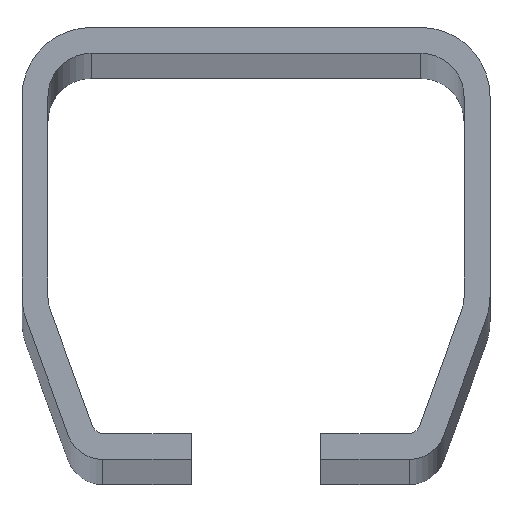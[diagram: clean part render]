
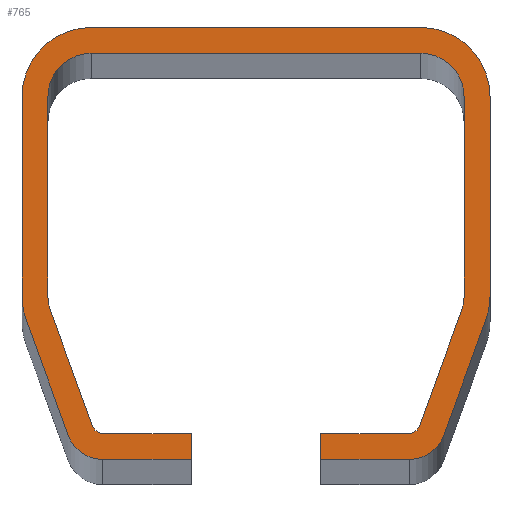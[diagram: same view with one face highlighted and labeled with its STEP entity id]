
A CAD part, top view. The second image highlights one B-rep face of the part: STEP entity #765.
In plain terms, the highlighted planar face has unit normal (0, 0, 1).
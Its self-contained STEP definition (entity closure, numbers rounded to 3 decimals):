
#17=CIRCLE('',#798,5.1);
#19=CIRCLE('',#802,9.6);
#21=CIRCLE('',#806,9.6);
#23=CIRCLE('',#810,9.6);
#25=CIRCLE('',#814,9.6);
#27=CIRCLE('',#818,5.1);
#29=CIRCLE('',#824,1.5);
#31=CIRCLE('',#828,6.);
#33=CIRCLE('',#832,6.);
#35=CIRCLE('',#836,6.);
#37=CIRCLE('',#840,6.);
#39=CIRCLE('',#844,1.5);
#91=FACE_OUTER_BOUND('',#133,.T.);
#133=EDGE_LOOP('',(#643,#644,#645,#646,#647,#648,#649,#650,#651,#652,#653,
#654,#655,#656,#657,#658,#659,#660,#661,#662,#663,#664,#665,#666,#667,#668,
#669,#670));
#161=LINE('',#1127,#245);
#165=LINE('',#1139,#249);
#169=LINE('',#1151,#253);
#173=LINE('',#1163,#257);
#177=LINE('',#1175,#261);
#181=LINE('',#1187,#265);
#184=LINE('',#1193,#268);
#187=LINE('',#1199,#271);
#191=LINE('',#1211,#275);
#195=LINE('',#1223,#279);
#199=LINE('',#1235,#283);
#203=LINE('',#1247,#287);
#207=LINE('',#1259,#291);
#211=LINE('',#1271,#295);
#214=LINE('',#1277,#298);
#217=LINE('',#1282,#301);
#245=VECTOR('',#907,10.);
#249=VECTOR('',#919,10.);
#253=VECTOR('',#931,10.);
#257=VECTOR('',#943,10.);
#261=VECTOR('',#955,10.);
#265=VECTOR('',#967,10.);
#268=VECTOR('',#972,10.);
#271=VECTOR('',#977,10.);
#275=VECTOR('',#989,10.);
#279=VECTOR('',#1001,10.);
#283=VECTOR('',#1013,10.);
#287=VECTOR('',#1025,10.);
#291=VECTOR('',#1037,10.);
#295=VECTOR('',#1049,10.);
#298=VECTOR('',#1054,10.);
#301=VECTOR('',#1059,10.);
#319=VERTEX_POINT('',#1117);
#320=VERTEX_POINT('',#1118);
#323=VERTEX_POINT('',#1126);
#325=VERTEX_POINT('',#1132);
#327=VERTEX_POINT('',#1138);
#329=VERTEX_POINT('',#1144);
#331=VERTEX_POINT('',#1150);
#333=VERTEX_POINT('',#1156);
#335=VERTEX_POINT('',#1162);
#337=VERTEX_POINT('',#1168);
#339=VERTEX_POINT('',#1174);
#341=VERTEX_POINT('',#1180);
#343=VERTEX_POINT('',#1186);
#345=VERTEX_POINT('',#1192);
#347=VERTEX_POINT('',#1198);
#349=VERTEX_POINT('',#1204);
#351=VERTEX_POINT('',#1210);
#353=VERTEX_POINT('',#1216);
#355=VERTEX_POINT('',#1222);
#357=VERTEX_POINT('',#1228);
#359=VERTEX_POINT('',#1234);
#361=VERTEX_POINT('',#1240);
#363=VERTEX_POINT('',#1246);
#365=VERTEX_POINT('',#1252);
#367=VERTEX_POINT('',#1258);
#369=VERTEX_POINT('',#1264);
#371=VERTEX_POINT('',#1270);
#373=VERTEX_POINT('',#1276);
#399=EDGE_CURVE('',#319,#320,#17,.T.);
#403=EDGE_CURVE('',#320,#323,#161,.T.);
#406=EDGE_CURVE('',#323,#325,#19,.T.);
#409=EDGE_CURVE('',#325,#327,#165,.T.);
#412=EDGE_CURVE('',#327,#329,#21,.T.);
#415=EDGE_CURVE('',#329,#331,#169,.T.);
#418=EDGE_CURVE('',#331,#333,#23,.T.);
#421=EDGE_CURVE('',#333,#335,#173,.T.);
#424=EDGE_CURVE('',#335,#337,#25,.T.);
#427=EDGE_CURVE('',#337,#339,#177,.T.);
#430=EDGE_CURVE('',#339,#341,#27,.T.);
#433=EDGE_CURVE('',#341,#343,#181,.T.);
#436=EDGE_CURVE('',#343,#345,#184,.T.);
#439=EDGE_CURVE('',#345,#347,#187,.T.);
#442=EDGE_CURVE('',#347,#349,#29,.T.);
#445=EDGE_CURVE('',#349,#351,#191,.T.);
#448=EDGE_CURVE('',#351,#353,#31,.T.);
#451=EDGE_CURVE('',#353,#355,#195,.T.);
#454=EDGE_CURVE('',#355,#357,#33,.T.);
#457=EDGE_CURVE('',#357,#359,#199,.T.);
#460=EDGE_CURVE('',#359,#361,#35,.T.);
#463=EDGE_CURVE('',#361,#363,#203,.T.);
#466=EDGE_CURVE('',#363,#365,#37,.T.);
#469=EDGE_CURVE('',#365,#367,#207,.T.);
#472=EDGE_CURVE('',#367,#369,#39,.T.);
#475=EDGE_CURVE('',#369,#371,#211,.T.);
#478=EDGE_CURVE('',#371,#373,#214,.T.);
#481=EDGE_CURVE('',#373,#319,#217,.T.);
#643=ORIENTED_EDGE('',*,*,#399,.F.);
#644=ORIENTED_EDGE('',*,*,#481,.F.);
#645=ORIENTED_EDGE('',*,*,#478,.F.);
#646=ORIENTED_EDGE('',*,*,#475,.F.);
#647=ORIENTED_EDGE('',*,*,#472,.F.);
#648=ORIENTED_EDGE('',*,*,#469,.F.);
#649=ORIENTED_EDGE('',*,*,#466,.F.);
#650=ORIENTED_EDGE('',*,*,#463,.F.);
#651=ORIENTED_EDGE('',*,*,#460,.F.);
#652=ORIENTED_EDGE('',*,*,#457,.F.);
#653=ORIENTED_EDGE('',*,*,#454,.F.);
#654=ORIENTED_EDGE('',*,*,#451,.F.);
#655=ORIENTED_EDGE('',*,*,#448,.F.);
#656=ORIENTED_EDGE('',*,*,#445,.F.);
#657=ORIENTED_EDGE('',*,*,#442,.F.);
#658=ORIENTED_EDGE('',*,*,#439,.F.);
#659=ORIENTED_EDGE('',*,*,#436,.F.);
#660=ORIENTED_EDGE('',*,*,#433,.F.);
#661=ORIENTED_EDGE('',*,*,#430,.F.);
#662=ORIENTED_EDGE('',*,*,#427,.F.);
#663=ORIENTED_EDGE('',*,*,#424,.F.);
#664=ORIENTED_EDGE('',*,*,#421,.F.);
#665=ORIENTED_EDGE('',*,*,#418,.F.);
#666=ORIENTED_EDGE('',*,*,#415,.F.);
#667=ORIENTED_EDGE('',*,*,#412,.F.);
#668=ORIENTED_EDGE('',*,*,#409,.F.);
#669=ORIENTED_EDGE('',*,*,#406,.F.);
#670=ORIENTED_EDGE('',*,*,#403,.F.);
#725=PLANE('',#849);
#765=ADVANCED_FACE('',(#91),#725,.T.);
#798=AXIS2_PLACEMENT_3D('',#1119,#899,#900);
#802=AXIS2_PLACEMENT_3D('',#1133,#912,#913);
#806=AXIS2_PLACEMENT_3D('',#1145,#924,#925);
#810=AXIS2_PLACEMENT_3D('',#1157,#936,#937);
#814=AXIS2_PLACEMENT_3D('',#1169,#948,#949);
#818=AXIS2_PLACEMENT_3D('',#1181,#960,#961);
#824=AXIS2_PLACEMENT_3D('',#1205,#982,#983);
#828=AXIS2_PLACEMENT_3D('',#1217,#994,#995);
#832=AXIS2_PLACEMENT_3D('',#1229,#1006,#1007);
#836=AXIS2_PLACEMENT_3D('',#1241,#1018,#1019);
#840=AXIS2_PLACEMENT_3D('',#1253,#1030,#1031);
#844=AXIS2_PLACEMENT_3D('',#1265,#1042,#1043);
#849=AXIS2_PLACEMENT_3D('',#1284,#1061,#1062);
#899=DIRECTION('center_axis',(0.,0.,-1.));
#900=DIRECTION('ref_axis',(0.94,0.342,0.));
#907=DIRECTION('',(-0.342,0.94,0.));
#912=DIRECTION('center_axis',(0.,0.,-1.));
#913=DIRECTION('ref_axis',(1.,0.,0.));
#919=DIRECTION('',(0.,1.,0.));
#924=DIRECTION('center_axis',(0.,0.,-1.));
#925=DIRECTION('ref_axis',(0.,-1.,0.));
#931=DIRECTION('',(1.,0.,0.));
#936=DIRECTION('center_axis',(0.,0.,-1.));
#937=DIRECTION('ref_axis',(-1.,0.,0.));
#943=DIRECTION('',(0.,-1.,0.));
#948=DIRECTION('center_axis',(0.,0.,-1.));
#949=DIRECTION('ref_axis',(-0.94,0.342,0.));
#955=DIRECTION('',(-0.342,-0.94,0.));
#960=DIRECTION('center_axis',(0.,0.,-1.));
#961=DIRECTION('ref_axis',(0.,1.,0.));
#967=DIRECTION('',(-1.,0.,0.));
#972=DIRECTION('',(0.,1.,0.));
#977=DIRECTION('',(1.,0.,0.));
#982=DIRECTION('center_axis',(0.,0.,1.));
#983=DIRECTION('ref_axis',(0.,-1.,0.));
#989=DIRECTION('',(0.342,0.94,0.));
#994=DIRECTION('center_axis',(0.,0.,1.));
#995=DIRECTION('ref_axis',(0.94,-0.342,0.));
#1001=DIRECTION('',(0.,1.,0.));
#1006=DIRECTION('center_axis',(0.,0.,1.));
#1007=DIRECTION('ref_axis',(1.,0.,0.));
#1013=DIRECTION('',(-1.,0.,0.));
#1018=DIRECTION('center_axis',(0.,0.,1.));
#1019=DIRECTION('ref_axis',(0.,1.,0.));
#1025=DIRECTION('',(0.,-1.,0.));
#1030=DIRECTION('center_axis',(0.,0.,1.));
#1031=DIRECTION('ref_axis',(-1.,0.,0.));
#1037=DIRECTION('',(0.342,-0.94,0.));
#1042=DIRECTION('center_axis',(0.,0.,1.));
#1043=DIRECTION('ref_axis',(-0.94,-0.342,0.));
#1049=DIRECTION('',(1.,0.,0.));
#1054=DIRECTION('',(0.,-1.,0.));
#1059=DIRECTION('',(-1.,0.,0.));
#1061=DIRECTION('center_axis',(0.,0.,1.));
#1062=DIRECTION('ref_axis',(1.,0.,0.));
#1117=CARTESIAN_POINT('',(-21.286,-3.6,2000.));
#1118=CARTESIAN_POINT('',(-26.078,-0.244,2000.));
#1119=CARTESIAN_POINT('Origin',(-21.286,1.5,2000.));
#1126=CARTESIAN_POINT('',(-31.921,15.809,2000.));
#1127=CARTESIAN_POINT('',(-26.078,-0.244,2000.));
#1132=CARTESIAN_POINT('',(-32.5,19.093,2000.));
#1133=CARTESIAN_POINT('Origin',(-22.9,19.093,2000.));
#1138=CARTESIAN_POINT('',(-32.5,46.8,2000.));
#1139=CARTESIAN_POINT('',(-32.5,19.093,2000.));
#1144=CARTESIAN_POINT('',(-22.9,56.4,2000.));
#1145=CARTESIAN_POINT('Origin',(-22.9,46.8,2000.));
#1150=CARTESIAN_POINT('',(22.9,56.4,2000.));
#1151=CARTESIAN_POINT('',(-22.9,56.4,2000.));
#1156=CARTESIAN_POINT('',(32.5,46.8,2000.));
#1157=CARTESIAN_POINT('Origin',(22.9,46.8,2000.));
#1162=CARTESIAN_POINT('',(32.5,19.093,2000.));
#1163=CARTESIAN_POINT('',(32.5,46.8,2000.));
#1168=CARTESIAN_POINT('',(31.921,15.809,2000.));
#1169=CARTESIAN_POINT('Origin',(22.9,19.093,2000.));
#1174=CARTESIAN_POINT('',(26.078,-0.244,2000.));
#1175=CARTESIAN_POINT('',(31.921,15.809,2000.));
#1180=CARTESIAN_POINT('',(21.286,-3.6,2000.));
#1181=CARTESIAN_POINT('Origin',(21.286,1.5,2000.));
#1186=CARTESIAN_POINT('',(9.,-3.6,2000.));
#1187=CARTESIAN_POINT('',(21.286,-3.6,2000.));
#1192=CARTESIAN_POINT('',(9.,0.,2000.));
#1193=CARTESIAN_POINT('',(9.,-3.6,2000.));
#1198=CARTESIAN_POINT('',(21.286,0.,2000.));
#1199=CARTESIAN_POINT('',(9.,0.,2000.));
#1204=CARTESIAN_POINT('',(22.695,0.987,2000.));
#1205=CARTESIAN_POINT('Origin',(21.286,1.5,2000.));
#1210=CARTESIAN_POINT('',(28.538,17.041,2000.));
#1211=CARTESIAN_POINT('',(22.695,0.987,2000.));
#1216=CARTESIAN_POINT('',(28.9,19.093,2000.));
#1217=CARTESIAN_POINT('Origin',(22.9,19.093,2000.));
#1222=CARTESIAN_POINT('',(28.9,46.8,2000.));
#1223=CARTESIAN_POINT('',(28.9,19.093,2000.));
#1228=CARTESIAN_POINT('',(22.9,52.8,2000.));
#1229=CARTESIAN_POINT('Origin',(22.9,46.8,2000.));
#1234=CARTESIAN_POINT('',(-22.9,52.8,2000.));
#1235=CARTESIAN_POINT('',(22.9,52.8,2000.));
#1240=CARTESIAN_POINT('',(-28.9,46.8,2000.));
#1241=CARTESIAN_POINT('Origin',(-22.9,46.8,2000.));
#1246=CARTESIAN_POINT('',(-28.9,19.093,2000.));
#1247=CARTESIAN_POINT('',(-28.9,46.8,2000.));
#1252=CARTESIAN_POINT('',(-28.538,17.041,2000.));
#1253=CARTESIAN_POINT('Origin',(-22.9,19.093,2000.));
#1258=CARTESIAN_POINT('',(-22.695,0.987,2000.));
#1259=CARTESIAN_POINT('',(-28.538,17.041,2000.));
#1264=CARTESIAN_POINT('',(-21.286,0.,2000.));
#1265=CARTESIAN_POINT('Origin',(-21.286,1.5,2000.));
#1270=CARTESIAN_POINT('',(-9.,0.,2000.));
#1271=CARTESIAN_POINT('',(-21.286,0.,2000.));
#1276=CARTESIAN_POINT('',(-9.,-3.6,2000.));
#1277=CARTESIAN_POINT('',(-9.,0.,2000.));
#1282=CARTESIAN_POINT('',(-9.,-3.6,2000.));
#1284=CARTESIAN_POINT('Origin',(0.,29.355,2000.));
